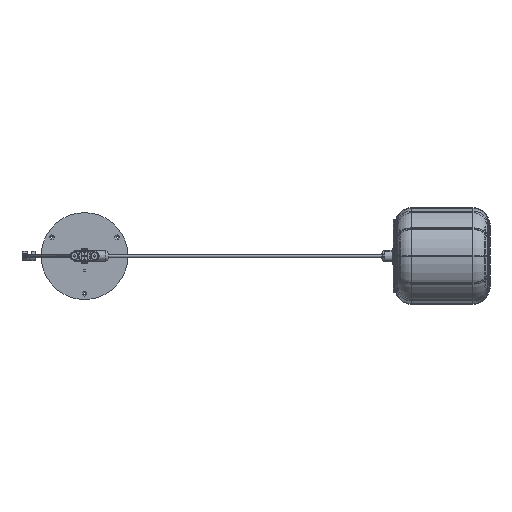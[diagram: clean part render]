
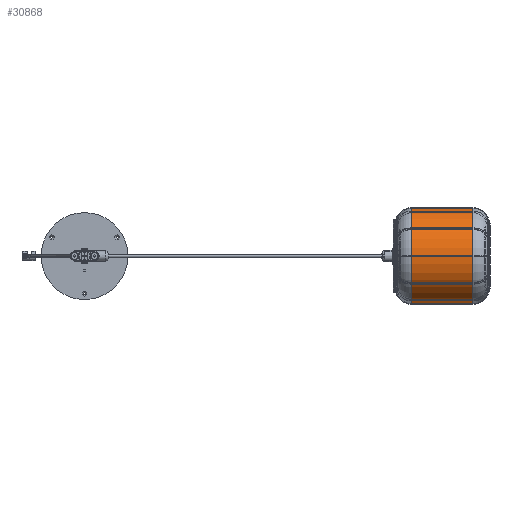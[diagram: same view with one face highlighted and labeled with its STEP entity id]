
A CAD part, left-side view. The second image highlights one B-rep face of the part: STEP entity #30868.
In plain terms, the highlighted cylindrical face has radius 83.5 mm (diameter 167 mm), a partial arc.
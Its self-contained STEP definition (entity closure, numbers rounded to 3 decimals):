
#3409 = EDGE_CURVE ( 'NONE', #27238, #29315, #10683, .T. ) ;
#3420 = FACE_OUTER_BOUND ( 'NONE', #18095, .T. ) ;
#3793 = CIRCLE ( 'NONE', #35621, 83.5 ) ;
#5358 = VECTOR ( 'NONE', #54798, 1000. ) ;
#6994 = CARTESIAN_POINT ( 'NONE',  ( 0., 130.505, 0. ) ) ;
#7408 = VERTEX_POINT ( 'NONE', #30398 ) ;
#7766 = LINE ( 'NONE', #11201, #30813 ) ;
#7869 = DIRECTION ( 'NONE',  ( 0., -1., 0. ) ) ;
#10683 = LINE ( 'NONE', #19236, #5358 ) ;
#11201 = CARTESIAN_POINT ( 'NONE',  ( 0., 0., 83.5 ) ) ;
#13464 = AXIS2_PLACEMENT_3D ( 'NONE', #38179, #25071, #43011 ) ;
#16319 = EDGE_CURVE ( 'NONE', #39555, #29315, #3793, .T. ) ;
#16676 = DIRECTION ( 'NONE',  ( 0., 0., -1. ) ) ;
#18095 = EDGE_LOOP ( 'NONE', ( #35843, #45373, #20974, #26103 ) ) ;
#19236 = CARTESIAN_POINT ( 'NONE',  ( 0., 0., -83.5 ) ) ;
#20974 = ORIENTED_EDGE ( 'NONE', *, *, #3409, .T. ) ;
#24364 = DIRECTION ( 'NONE',  ( 0., -1., 0. ) ) ;
#25071 = DIRECTION ( 'NONE',  ( 0., -1., 0. ) ) ;
#26103 = ORIENTED_EDGE ( 'NONE', *, *, #16319, .F. ) ;
#27238 = VERTEX_POINT ( 'NONE', #53664 ) ;
#28592 = DIRECTION ( 'NONE',  ( 0., -1., 0. ) ) ;
#29315 = VERTEX_POINT ( 'NONE', #47727 ) ;
#30398 = CARTESIAN_POINT ( 'NONE',  ( 0., 130.505, 83.5 ) ) ;
#30813 = VECTOR ( 'NONE', #28592, 1000. ) ;
#30868 = ADVANCED_FACE ( 'NONE', ( #3420 ), #46699, .T. ) ;
#35621 = AXIS2_PLACEMENT_3D ( 'NONE', #46867, #7869, #16676 ) ;
#35843 = ORIENTED_EDGE ( 'NONE', *, *, #54316, .F. ) ;
#36656 = CIRCLE ( 'NONE', #37551, 83.5 ) ;
#37551 = AXIS2_PLACEMENT_3D ( 'NONE', #6994, #24364, #41748 ) ;
#38179 = CARTESIAN_POINT ( 'NONE',  ( 0., 0., 0. ) ) ;
#39555 = VERTEX_POINT ( 'NONE', #41660 ) ;
#41660 = CARTESIAN_POINT ( 'NONE',  ( 0., 24.495, 83.5 ) ) ;
#41748 = DIRECTION ( 'NONE',  ( 0., 0., -1. ) ) ;
#43011 = DIRECTION ( 'NONE',  ( 0., 0., -1. ) ) ;
#45117 = EDGE_CURVE ( 'NONE', #7408, #27238, #36656, .T. ) ;
#45373 = ORIENTED_EDGE ( 'NONE', *, *, #45117, .T. ) ;
#46699 = CYLINDRICAL_SURFACE ( 'NONE', #13464, 83.5 ) ;
#46867 = CARTESIAN_POINT ( 'NONE',  ( 0., 24.495, 0. ) ) ;
#47727 = CARTESIAN_POINT ( 'NONE',  ( 0., 24.495, -83.5 ) ) ;
#53664 = CARTESIAN_POINT ( 'NONE',  ( 0., 130.505, -83.5 ) ) ;
#54316 = EDGE_CURVE ( 'NONE', #7408, #39555, #7766, .T. ) ;
#54798 = DIRECTION ( 'NONE',  ( 0., -1., 0. ) ) ;
